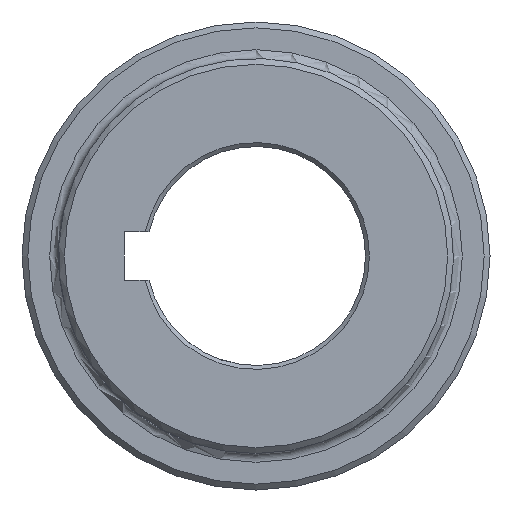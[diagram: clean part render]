
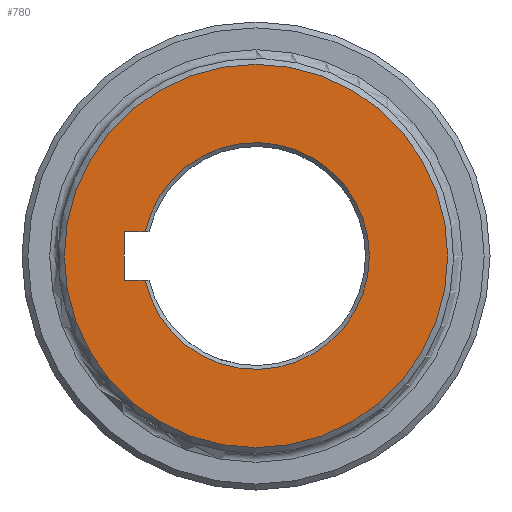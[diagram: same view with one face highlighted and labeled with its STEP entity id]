
A CAD part, left-side view. The second image highlights one B-rep face of the part: STEP entity #780.
In plain terms, the highlighted planar face has unit normal (-1, 0, 0).
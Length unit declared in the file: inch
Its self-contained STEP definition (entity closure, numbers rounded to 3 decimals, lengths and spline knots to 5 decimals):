
#183 = CARTESIAN_POINT ( 'NONE',  ( 0., 0., -1.97 ) ) ;
#193 = EDGE_LOOP ( 'NONE', ( #2178, #635, #2534, #1651 ) ) ;
#326 = VERTEX_POINT ( 'NONE', #1501 ) ;
#407 = FACE_OUTER_BOUND ( 'NONE', #2220, .T. ) ;
#455 = CARTESIAN_POINT ( 'NONE',  ( 0., 0., 0. ) ) ;
#510 = EDGE_CURVE ( 'NONE', #326, #2233, #2894, .T. ) ;
#548 = PLANE ( 'NONE',  #1406 ) ;
#631 = DIRECTION ( 'NONE',  ( 0., 0., -1. ) ) ;
#635 = ORIENTED_EDGE ( 'NONE', *, *, #2073, .T. ) ;
#715 = DIRECTION ( 'NONE',  ( 1., 0., 0. ) ) ;
#760 = AXIS2_PLACEMENT_3D ( 'NONE', #2700, #1435, #631 ) ;
#780 = ADVANCED_FACE ( 'NONE', ( #407, #2409 ), #548, .F. ) ;
#800 = CARTESIAN_POINT ( 'NONE',  ( 0., 1.13827, -0.25 ) ) ;
#835 = ORIENTED_EDGE ( 'NONE', *, *, #1607, .T. ) ;
#849 = DIRECTION ( 'NONE',  ( 1., 0., 0. ) ) ;
#853 = VERTEX_POINT ( 'NONE', #2828 ) ;
#1050 = DIRECTION ( 'NONE',  ( 0., -1., 0. ) ) ;
#1063 = DIRECTION ( 'NONE',  ( 0., 0., -1. ) ) ;
#1081 = CARTESIAN_POINT ( 'NONE',  ( 0., 1.3526, -0.25 ) ) ;
#1095 = VERTEX_POINT ( 'NONE', #800 ) ;
#1187 = VECTOR ( 'NONE', #1050, 39.37008 ) ;
#1190 = VERTEX_POINT ( 'NONE', #183 ) ;
#1375 = VECTOR ( 'NONE', #2368, 39.37008 ) ;
#1382 = LINE ( 'NONE', #2302, #1187 ) ;
#1406 = AXIS2_PLACEMENT_3D ( 'NONE', #455, #715, #1063 ) ;
#1435 = DIRECTION ( 'NONE',  ( -1., 0., 0. ) ) ;
#1501 = CARTESIAN_POINT ( 'NONE',  ( 0., 1.13827, 0.25 ) ) ;
#1570 = DIRECTION ( 'NONE',  ( 0., 0., -1. ) ) ;
#1607 = EDGE_CURVE ( 'NONE', #1190, #1190, #2029, .T. ) ;
#1651 = ORIENTED_EDGE ( 'NONE', *, *, #2241, .F. ) ;
#1665 = CARTESIAN_POINT ( 'NONE',  ( 0., 0., 0. ) ) ;
#1710 = DIRECTION ( 'NONE',  ( 0., 0., -1. ) ) ;
#1848 = AXIS2_PLACEMENT_3D ( 'NONE', #1665, #849, #1570 ) ;
#2002 = CARTESIAN_POINT ( 'NONE',  ( 0., 0., 0.25 ) ) ;
#2029 = CIRCLE ( 'NONE', #760, 1.97 ) ;
#2037 = EDGE_CURVE ( 'NONE', #853, #1095, #1382, .T. ) ;
#2073 = EDGE_CURVE ( 'NONE', #326, #1095, #2312, .T. ) ;
#2119 = VECTOR ( 'NONE', #1710, 39.37008 ) ;
#2178 = ORIENTED_EDGE ( 'NONE', *, *, #510, .F. ) ;
#2220 = EDGE_LOOP ( 'NONE', ( #835 ) ) ;
#2233 = VERTEX_POINT ( 'NONE', #2705 ) ;
#2241 = EDGE_CURVE ( 'NONE', #2233, #853, #2830, .T. ) ;
#2302 = CARTESIAN_POINT ( 'NONE',  ( 0., 0., -0.25 ) ) ;
#2312 = CIRCLE ( 'NONE', #1848, 1.1654 ) ;
#2368 = DIRECTION ( 'NONE',  ( 0., 1., 0. ) ) ;
#2409 = FACE_BOUND ( 'NONE', #193, .T. ) ;
#2534 = ORIENTED_EDGE ( 'NONE', *, *, #2037, .F. ) ;
#2700 = CARTESIAN_POINT ( 'NONE',  ( 0., 0., 0. ) ) ;
#2705 = CARTESIAN_POINT ( 'NONE',  ( 0., 1.3526, 0.25 ) ) ;
#2828 = CARTESIAN_POINT ( 'NONE',  ( 0., 1.3526, -0.25 ) ) ;
#2830 = LINE ( 'NONE', #1081, #2119 ) ;
#2894 = LINE ( 'NONE', #2002, #1375 ) ;
